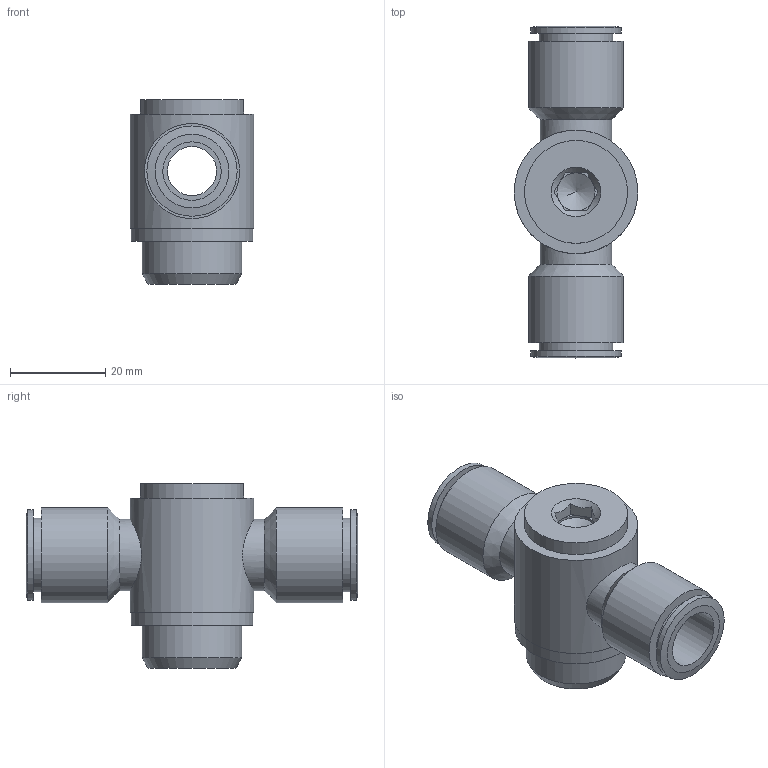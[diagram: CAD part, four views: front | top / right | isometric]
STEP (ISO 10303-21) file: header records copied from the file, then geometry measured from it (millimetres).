
FILE_DESCRIPTION((''),'2;1');
FILE_NAME('C:\Documents and Settings\rivolro1\Documenti\copia di Raccordi\PLASTICA\T16XXXX\T161212.stp','2007-10-31T15:07:11',('Rivolro1'),(''),'Autodesk Inventor 2008','Autodesk Inventor 2008','');
FILE_SCHEMA(('AUTOMOTIVE_DESIGN { 1 0 10303 214 1 1 1 1 }'));
Length unit declared in the file: millimetre
Products named in the file (1): T161212
Bounding box: 26 x 69.8 x 38.8 mm (x, y, z)
Volume: 23096.6 mm3; surface area: 9864 mm2
Topology: 1 solids, 1 shells, 48 faces, 101 edges, 65 vertices
Faces by surface type: plane 23, cylinder 13, bspline 7, cone 5
Full cylindrical faces by diameter (mm): 10.3 x1, 15 x2, 15.5 x2, 19 x2, 20 x2, 21 x1, 21.667 x1, 25.6 x1, 26 x1
Entity records: 1404 total; most frequent: CARTESIAN_POINT 462, DIRECTION 180, ORIENTED_EDGE 142, EDGE_LOOP 84, AXIS2_PLACEMENT_3D 81, EDGE_CURVE 71, VERTEX_POINT 59, FACE_OUTER_BOUND 48
